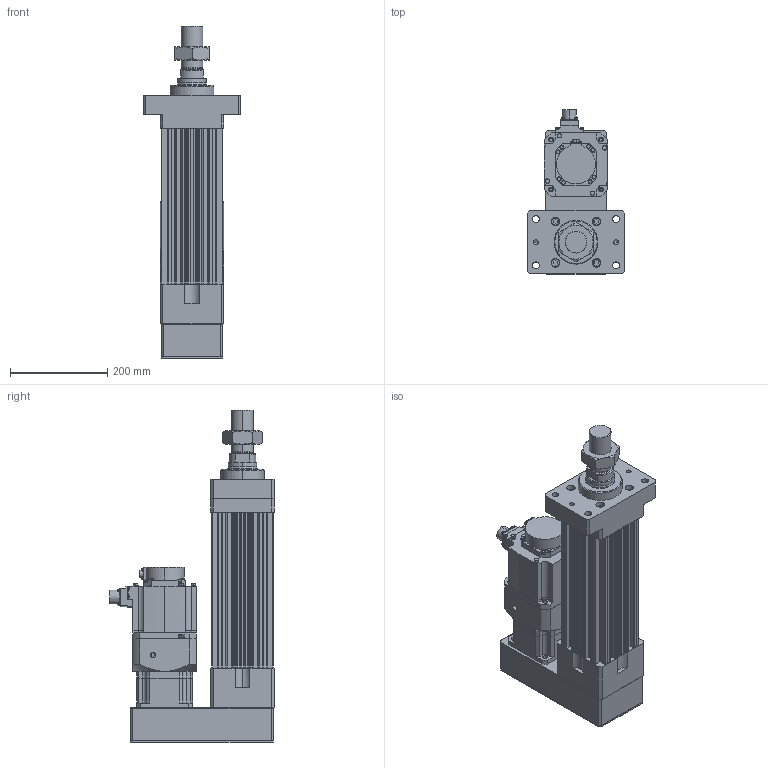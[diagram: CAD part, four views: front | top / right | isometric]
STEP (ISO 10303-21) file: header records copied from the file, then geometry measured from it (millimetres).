
FILE_DESCRIPTION (( 'STEP AP203' ), '1' );
FILE_NAME ('HES130NS(FS)(HS)-P100-W015G00-M-FMA.STEP', '2023-01-29T04:26:02', ( 'tms' ), ( '' ), 'SwSTEP 2.0', 'SolidWorks 2013', '' );
FILE_SCHEMA (( 'CONFIG_CONTROL_DESIGN' ));
Length unit declared in the file: millimetre
Products named in the file (8): AB115-003[HG-SR152]; HES130NS(FS)(HS)-P100-W015G00-M-FMA; AB1151; HG-SR152; HES130 ROD M ST100; M45X1.5P; P0401400706; HES130-P100-G120-FMA
Assembly tree (7 placements, depth 3):
  HES130NS(FS)(HS)-P100-W015G00-M-FMA
    HES130-P100-G120-FMA
    HES130 ROD M ST100
    M45X1.5P
    AB115-003[HG-SR152]
      AB1151
      P0401400706
    HG-SR152
Bounding box: 200 x 337.49 x 682 mm (x, y, z)
Volume: 9230235.7 mm3; surface area: 1003249.6 mm2
Topology: 4 solids, 11 shells, 1082 faces, 2768 edges, 1799 vertices
Faces by surface type: cylinder 513, plane 489, cone 68, bspline 8, torus 4
Entity records: 34626 total; most frequent: CARTESIAN_POINT 6632, DIRECTION 5993, ORIENTED_EDGE 5484, EDGE_CURVE 2752, AXIS2_PLACEMENT_3D 2228, VERTEX_POINT 1799, VECTOR 1537, LINE 1537
